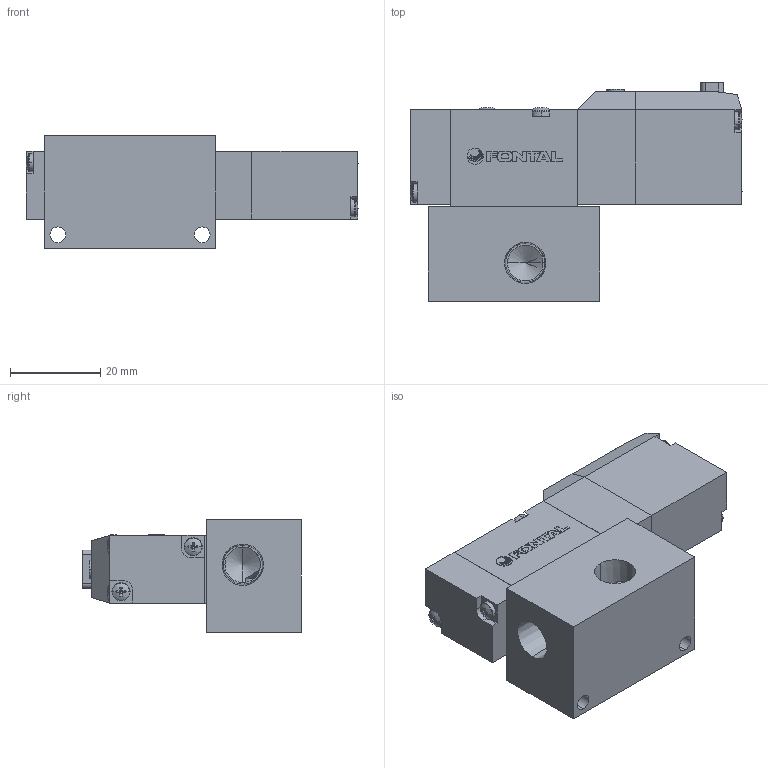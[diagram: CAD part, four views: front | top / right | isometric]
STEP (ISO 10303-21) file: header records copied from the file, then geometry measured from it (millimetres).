
FILE_DESCRIPTION (( 'STEP AP203' ), '1' );
FILE_NAME ('PCS245#-01-#-L-#.STEP', '2016-02-04T03:51:45', ( 'Sam Lin' ), ( '' ), 'SwSTEP 2.0', 'SolidWorks 2013', '' );
FILE_SCHEMA (( 'CONFIG_CONTROL_DESIGN' ));
Length unit declared in the file: metre
Products named in the file (10): PC5-01-1; PC5-2; PCS245#-01-#-L-#; ISO 7045 - M2 x 10; PC5-3; PC5-5; PC-MARK; PC5-6; PC5-4; ISO 7045 - M2.5 x 25
Assembly tree (13 placements, depth 2):
  PCS245#-01-#-L-#
    PC5-2
    ISO 7045 - M2 x 10  x4
    PC5-3
    PC5-5
    PC-MARK
    PC5-6
    PC5-4
    ISO 7045 - M2.5 x 25  x2
    PC5-01-1
Bounding box: 73.64 x 48.5 x 25 mm (x, y, z)
Volume: 40365.5 mm3; surface area: 17028.6 mm2
Topology: 19 solids, 19 shells, 498 faces, 1236 edges, 768 vertices
Faces by surface type: plane 268, cylinder 97, cone 89, bspline 44
Entity records: 11351 total; most frequent: CARTESIAN_POINT 2443, ORIENTED_EDGE 1612, DIRECTION 1587, EDGE_CURVE 806, AXIS2_PLACEMENT_3D 558, VERTEX_POINT 522, VECTOR 471, LINE 471
